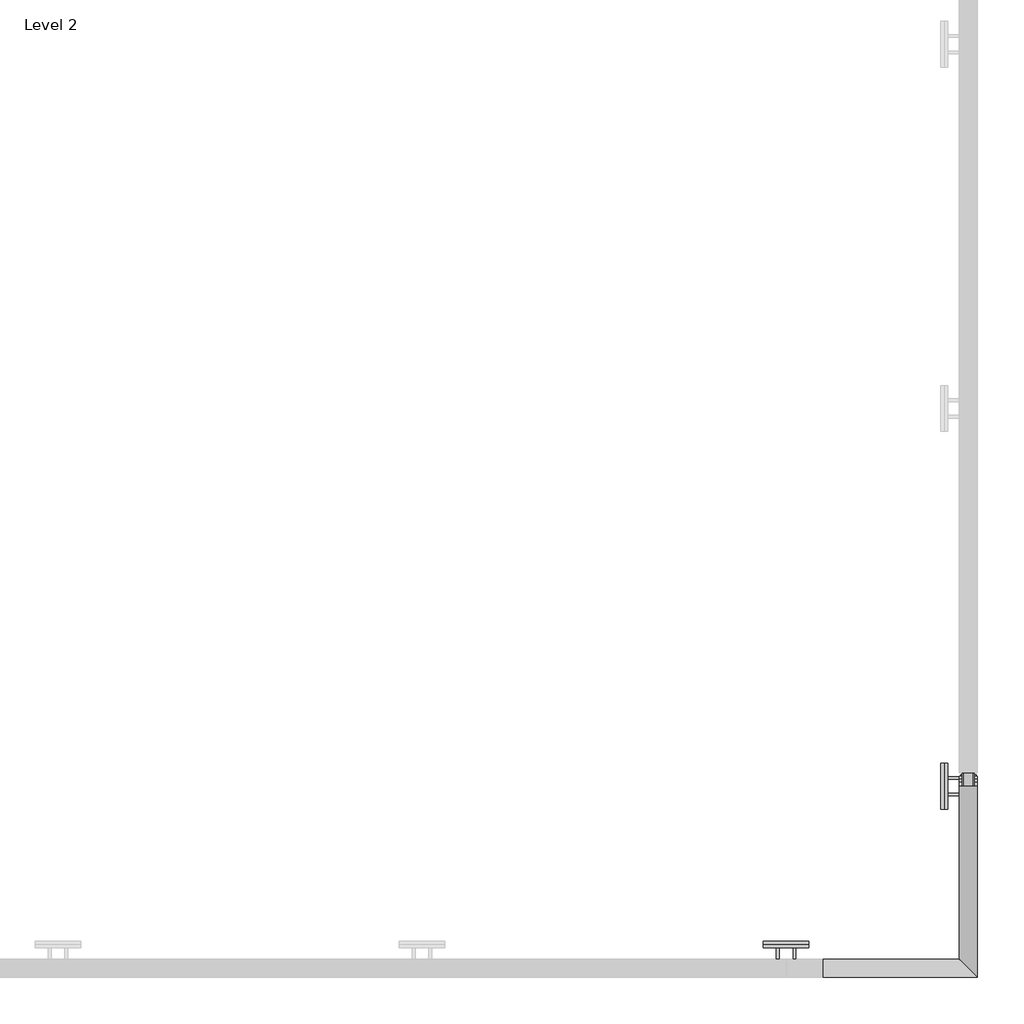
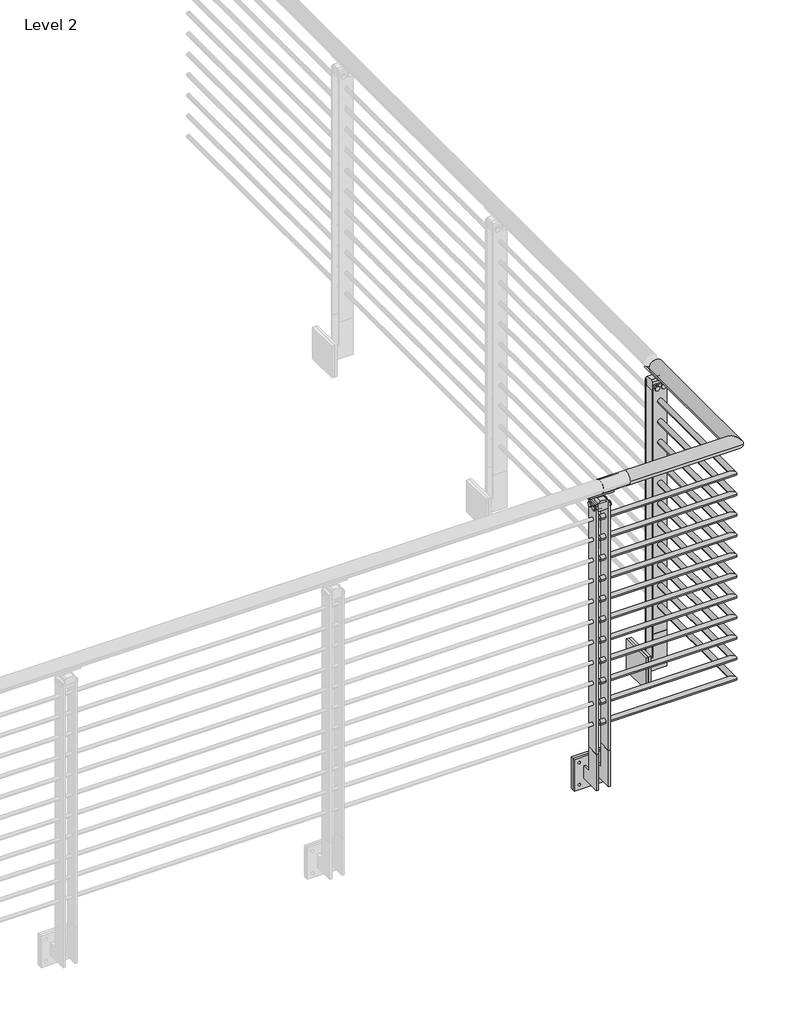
# One storey, part 3 of 31: 1 railing.
"""IFC4 building model written with IfcOpenShell, lengths in millimetres."""

from ifc_helpers import new_model, si_unit, point, frame, frame_2d, origin, place, context, project, spatial, polyline, circle_curve, ellipse_curve, trimmed, segment, composite_curve, outline, extrude, element, save
from ifc_brep_helpers import plane_surface, cylinder_surface, revolved_surface, advanced_brep

model = new_model("IFC4")

# Units and contexts
model_context = context("Model", 3, world=origin())
ifc_project = project(units=[si_unit("LENGTHUNIT", "METRE", prefix="MILLI")], contexts=[model_context])

# Site, building, storey
site = spatial("IfcSite", under=ifc_project)
building = spatial("IfcBuilding", under=site)
storey = spatial("IfcBuildingStorey", under=building, Name="Level 2", Elevation=3048.0)

# Railing
placement = place(None, origin())
element("IfcRailing", 1, ObjectType="VIVA-BLADE-Multiline-Fascia Mount-Corner", at=placement, inside=storey, context=model_context, shape_type="SolidModel", body=[
    advanced_brep(
    [(-4132.0054973, -70126.0426165, 4102.1), (-4132.0054973, -70176.8426165, 4102.1), (-3598.6054973, -70176.8426165, 4102.1), (-3649.4054973, -70126.0426165, 4102.1), (-3649.4054973, -69643.4426165, 4102.1), (-3598.6054973, -69643.4426165, 4102.1)],
    [
        (0, 1, circle_curve(frame((-4132.0054973, -70151.4426165, 4102.1), z_axis=(-1.0, 0.0, 0.0), x_axis=(0.0, -1.0, 0.0)), 25.4)),
        (1, 0, circle_curve(frame((-4132.0054973, -70151.4426165, 4102.1), z_axis=(-1.0, 0.0, 0.0), x_axis=(0.0, -1.0, 0.0)), 25.4)),
        (2, 3, ellipse_curve(frame((-3624.0054973, -70151.4426165, 4102.1), z_axis=(-0.7071067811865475, -0.7071067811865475, 0.0), x_axis=(0.7071067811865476, -0.7071067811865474, 0.0)), 35.9210245, 25.4)),
        (3, 0),
        (1, 2),
        (3, 2, ellipse_curve(frame((-3624.0054973, -70151.4426165, 4102.1), z_axis=(-0.7071067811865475, -0.7071067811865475, 0.0), x_axis=(0.7071067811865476, -0.7071067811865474, 0.0)), 35.9210245, 25.4)),
        (4, 5, circle_curve(frame((-3624.0054973, -69643.4426165, 4102.1), z_axis=(0.0, 1.0, 0.0), x_axis=(1.0, 0.0, 0.0)), 25.4)),
        (5, 4, circle_curve(frame((-3624.0054973, -69643.4426165, 4102.1), z_axis=(0.0, 1.0, 0.0), x_axis=(1.0, 0.0, 0.0)), 25.4)),
        (4, 3),
        (2, 5),
    ],
    [
        plane_surface(frame((-4132.0054973, -70151.4426165, 4127.5), z_axis=(-1.0, 0.0, 0.0), x_axis=(0.0, -1.0, 0.0))),
        cylinder_surface(frame((-3624.0054973, -70151.4426165, 4102.1), z_axis=(1.0, 0.0, 0.0), x_axis=(0.0, -1.0, 0.0)), 25.4),
        plane_surface(frame((-3624.0054973, -69643.4426165, 4127.5), z_axis=(0.0, 1.0, 0.0), x_axis=(0.0, 0.0, -1.0))),
        cylinder_surface(frame((-3624.0054973, -69643.4426165, 4102.1), z_axis=(0.0, 1.0, 0.0), x_axis=(1.0, 0.0, 0.0)), 25.4),
    ],
    [
        (0, [[1, 2]]),
        (1, [[3, 4, -2, 5]]),
        (1, [[6, -5, -1, -4]]),
        (2, [[7, 8]]),
        (3, [[-7, 9, -3, 10]]),
        (3, [[-8, -10, -6, -9]]),
    ],
),
    advanced_brep(
    [(-3633.5304973, -69643.4426165, 3978.275), (-3614.4804973, -69643.4426165, 3978.275), (-3614.4804973, -70160.9676165, 3978.275), (-3633.5304973, -70141.9176165, 3978.275), (-4132.0054973, -70141.9176165, 3978.275), (-4132.0054973, -70160.9676165, 3978.275)],
    [
        (0, 1, circle_curve(frame((-3624.0054973, -69643.4426165, 3978.275), z_axis=(0.0, 1.0, 0.0), x_axis=(1.0, 0.0, 0.0)), 9.525)),
        (1, 0, circle_curve(frame((-3624.0054973, -69643.4426165, 3978.275), z_axis=(0.0, 1.0, 0.0), x_axis=(1.0, 0.0, 0.0)), 9.525)),
        (1, 2),
        (2, 3, ellipse_curve(frame((-3624.0054973, -70151.4426165, 3978.275), z_axis=(0.7071067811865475, 0.7071067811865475, 0.0), x_axis=(-0.7071067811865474, 0.7071067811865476, 0.0)), 13.4703842, 9.525)),
        (3, 0),
        (3, 2, ellipse_curve(frame((-3624.0054973, -70151.4426165, 3978.275), z_axis=(0.7071067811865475, 0.7071067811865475, 0.0), x_axis=(-0.7071067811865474, 0.7071067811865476, 0.0)), 13.4703842, 9.525)),
        (4, 5, circle_curve(frame((-4132.0054973, -70151.4426165, 3978.275), z_axis=(-1.0, 0.0, 0.0), x_axis=(0.0, -1.0, 0.0)), 9.525)),
        (5, 4, circle_curve(frame((-4132.0054973, -70151.4426165, 3978.275), z_axis=(-1.0, 0.0, 0.0), x_axis=(0.0, -1.0, 0.0)), 9.525)),
        (2, 5),
        (4, 3),
    ],
    [
        plane_surface(frame((-3624.0054973, -69643.4426165, 3987.8), z_axis=(0.0, 1.0, 0.0), x_axis=(0.0, 0.0, -1.0))),
        cylinder_surface(frame((-3624.0054973, -69643.4426165, 3978.275), z_axis=(0.0, 1.0, 0.0), x_axis=(1.0, 0.0, 0.0)), 9.525),
        plane_surface(frame((-4132.0054973, -70151.4426165, 3987.8), z_axis=(-1.0, 0.0, 0.0), x_axis=(0.0, -1.0, 0.0))),
        cylinder_surface(frame((-3624.0054973, -70151.4426165, 3978.275), z_axis=(1.0, 0.0, 0.0), x_axis=(0.0, -1.0, 0.0)), 9.525),
    ],
    [
        (0, [[1, 2]]),
        (1, [[-2, 3, 4, 5]]),
        (1, [[-1, -5, 6, -3]]),
        (2, [[7, 8]]),
        (3, [[-4, 9, -7, 10]]),
        (3, [[-6, -10, -8, -9]]),
    ],
),
    advanced_brep(
    [(-3633.5304973, -69643.4426165, 3895.725), (-3614.4804973, -69643.4426165, 3895.725), (-3614.4804973, -70160.9676165, 3895.725), (-3633.5304973, -70141.9176165, 3895.725), (-4132.0054973, -70141.9176165, 3895.725), (-4132.0054973, -70160.9676165, 3895.725)],
    [
        (0, 1, circle_curve(frame((-3624.0054973, -69643.4426165, 3895.725), z_axis=(0.0, 1.0, 0.0), x_axis=(1.0, 0.0, 0.0)), 9.525)),
        (1, 0, circle_curve(frame((-3624.0054973, -69643.4426165, 3895.725), z_axis=(0.0, 1.0, 0.0), x_axis=(1.0, 0.0, 0.0)), 9.525)),
        (1, 2),
        (2, 3, ellipse_curve(frame((-3624.0054973, -70151.4426165, 3895.725), z_axis=(0.7071067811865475, 0.7071067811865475, 0.0), x_axis=(-0.7071067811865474, 0.7071067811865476, 0.0)), 13.4703842, 9.525)),
        (3, 0),
        (3, 2, ellipse_curve(frame((-3624.0054973, -70151.4426165, 3895.725), z_axis=(0.7071067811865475, 0.7071067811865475, 0.0), x_axis=(-0.7071067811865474, 0.7071067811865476, 0.0)), 13.4703842, 9.525)),
        (4, 5, circle_curve(frame((-4132.0054973, -70151.4426165, 3895.725), z_axis=(-1.0, 0.0, 0.0), x_axis=(0.0, -1.0, 0.0)), 9.525)),
        (5, 4, circle_curve(frame((-4132.0054973, -70151.4426165, 3895.725), z_axis=(-1.0, 0.0, 0.0), x_axis=(0.0, -1.0, 0.0)), 9.525)),
        (2, 5),
        (4, 3),
    ],
    [
        plane_surface(frame((-3624.0054973, -69643.4426165, 3905.25), z_axis=(0.0, 1.0, 0.0), x_axis=(0.0, 0.0, -1.0))),
        cylinder_surface(frame((-3624.0054973, -69643.4426165, 3895.725), z_axis=(0.0, 1.0, 0.0), x_axis=(1.0, 0.0, 0.0)), 9.525),
        plane_surface(frame((-4132.0054973, -70151.4426165, 3905.25), z_axis=(-1.0, 0.0, 0.0), x_axis=(0.0, -1.0, 0.0))),
        cylinder_surface(frame((-3624.0054973, -70151.4426165, 3895.725), z_axis=(1.0, 0.0, 0.0), x_axis=(0.0, -1.0, 0.0)), 9.525),
    ],
    [
        (0, [[1, 2]]),
        (1, [[-2, 3, 4, 5]]),
        (1, [[-1, -5, 6, -3]]),
        (2, [[7, 8]]),
        (3, [[-4, 9, -7, 10]]),
        (3, [[-6, -10, -8, -9]]),
    ],
),
    advanced_brep(
    [(-3633.5304973, -69643.4426165, 3813.175), (-3614.4804973, -69643.4426165, 3813.175), (-3614.4804973, -70160.9676165, 3813.175), (-3633.5304973, -70141.9176165, 3813.175), (-4132.0054973, -70141.9176165, 3813.175), (-4132.0054973, -70160.9676165, 3813.175)],
    [
        (0, 1, circle_curve(frame((-3624.0054973, -69643.4426165, 3813.175), z_axis=(0.0, 1.0, 0.0), x_axis=(1.0, 0.0, 0.0)), 9.525)),
        (1, 0, circle_curve(frame((-3624.0054973, -69643.4426165, 3813.175), z_axis=(0.0, 1.0, 0.0), x_axis=(1.0, 0.0, 0.0)), 9.525)),
        (1, 2),
        (2, 3, ellipse_curve(frame((-3624.0054973, -70151.4426165, 3813.175), z_axis=(0.7071067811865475, 0.7071067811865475, 0.0), x_axis=(-0.7071067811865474, 0.7071067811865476, 0.0)), 13.4703842, 9.525)),
        (3, 0),
        (3, 2, ellipse_curve(frame((-3624.0054973, -70151.4426165, 3813.175), z_axis=(0.7071067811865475, 0.7071067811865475, 0.0), x_axis=(-0.7071067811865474, 0.7071067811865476, 0.0)), 13.4703842, 9.525)),
        (4, 5, circle_curve(frame((-4132.0054973, -70151.4426165, 3813.175), z_axis=(-1.0, 0.0, 0.0), x_axis=(0.0, -1.0, 0.0)), 9.525)),
        (5, 4, circle_curve(frame((-4132.0054973, -70151.4426165, 3813.175), z_axis=(-1.0, 0.0, 0.0), x_axis=(0.0, -1.0, 0.0)), 9.525)),
        (2, 5),
        (4, 3),
    ],
    [
        plane_surface(frame((-3624.0054973, -69643.4426165, 3822.7), z_axis=(0.0, 1.0, 0.0), x_axis=(0.0, 0.0, -1.0))),
        cylinder_surface(frame((-3624.0054973, -69643.4426165, 3813.175), z_axis=(0.0, 1.0, 0.0), x_axis=(1.0, 0.0, 0.0)), 9.525),
        plane_surface(frame((-4132.0054973, -70151.4426165, 3822.7), z_axis=(-1.0, 0.0, 0.0), x_axis=(0.0, -1.0, 0.0))),
        cylinder_surface(frame((-3624.0054973, -70151.4426165, 3813.175), z_axis=(1.0, 0.0, 0.0), x_axis=(0.0, -1.0, 0.0)), 9.525),
    ],
    [
        (0, [[1, 2]]),
        (1, [[-2, 3, 4, 5]]),
        (1, [[-1, -5, 6, -3]]),
        (2, [[7, 8]]),
        (3, [[-4, 9, -7, 10]]),
        (3, [[-6, -10, -8, -9]]),
    ],
),
    advanced_brep(
    [(-3633.5304973, -69643.4426165, 3730.625), (-3614.4804973, -69643.4426165, 3730.625), (-3614.4804973, -70160.9676165, 3730.625), (-3633.5304973, -70141.9176165, 3730.625), (-4132.0054973, -70141.9176165, 3730.625), (-4132.0054973, -70160.9676165, 3730.625)],
    [
        (0, 1, circle_curve(frame((-3624.0054973, -69643.4426165, 3730.625), z_axis=(0.0, 1.0, 0.0), x_axis=(1.0, 0.0, 0.0)), 9.525)),
        (1, 0, circle_curve(frame((-3624.0054973, -69643.4426165, 3730.625), z_axis=(0.0, 1.0, 0.0), x_axis=(1.0, 0.0, 0.0)), 9.525)),
        (1, 2),
        (2, 3, ellipse_curve(frame((-3624.0054973, -70151.4426165, 3730.625), z_axis=(0.7071067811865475, 0.7071067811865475, 0.0), x_axis=(-0.7071067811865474, 0.7071067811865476, 0.0)), 13.4703842, 9.525)),
        (3, 0),
        (3, 2, ellipse_curve(frame((-3624.0054973, -70151.4426165, 3730.625), z_axis=(0.7071067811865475, 0.7071067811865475, 0.0), x_axis=(-0.7071067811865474, 0.7071067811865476, 0.0)), 13.4703842, 9.525)),
        (4, 5, circle_curve(frame((-4132.0054973, -70151.4426165, 3730.625), z_axis=(-1.0, 0.0, 0.0), x_axis=(0.0, -1.0, 0.0)), 9.525)),
        (5, 4, circle_curve(frame((-4132.0054973, -70151.4426165, 3730.625), z_axis=(-1.0, 0.0, 0.0), x_axis=(0.0, -1.0, 0.0)), 9.525)),
        (2, 5),
        (4, 3),
    ],
    [
        plane_surface(frame((-3624.0054973, -69643.4426165, 3740.15), z_axis=(0.0, 1.0, 0.0), x_axis=(0.0, 0.0, -1.0))),
        cylinder_surface(frame((-3624.0054973, -69643.4426165, 3730.625), z_axis=(0.0, 1.0, 0.0), x_axis=(1.0, 0.0, 0.0)), 9.525),
        plane_surface(frame((-4132.0054973, -70151.4426165, 3740.15), z_axis=(-1.0, 0.0, 0.0), x_axis=(0.0, -1.0, 0.0))),
        cylinder_surface(frame((-3624.0054973, -70151.4426165, 3730.625), z_axis=(1.0, 0.0, 0.0), x_axis=(0.0, -1.0, 0.0)), 9.525),
    ],
    [
        (0, [[1, 2]]),
        (1, [[-2, 3, 4, 5]]),
        (1, [[-1, -5, 6, -3]]),
        (2, [[7, 8]]),
        (3, [[-4, 9, -7, 10]]),
        (3, [[-6, -10, -8, -9]]),
    ],
),
    advanced_brep(
    [(-3633.5304973, -69643.4426165, 3648.075), (-3614.4804973, -69643.4426165, 3648.075), (-3614.4804973, -70160.9676165, 3648.075), (-3633.5304973, -70141.9176165, 3648.075), (-4132.0054973, -70141.9176165, 3648.075), (-4132.0054973, -70160.9676165, 3648.075)],
    [
        (0, 1, circle_curve(frame((-3624.0054973, -69643.4426165, 3648.075), z_axis=(0.0, 1.0, 0.0), x_axis=(1.0, 0.0, 0.0)), 9.525)),
        (1, 0, circle_curve(frame((-3624.0054973, -69643.4426165, 3648.075), z_axis=(0.0, 1.0, 0.0), x_axis=(1.0, 0.0, 0.0)), 9.525)),
        (1, 2),
        (2, 3, ellipse_curve(frame((-3624.0054973, -70151.4426165, 3648.075), z_axis=(0.7071067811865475, 0.7071067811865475, 0.0), x_axis=(-0.7071067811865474, 0.7071067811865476, 0.0)), 13.4703842, 9.525)),
        (3, 0),
        (3, 2, ellipse_curve(frame((-3624.0054973, -70151.4426165, 3648.075), z_axis=(0.7071067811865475, 0.7071067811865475, 0.0), x_axis=(-0.7071067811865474, 0.7071067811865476, 0.0)), 13.4703842, 9.525)),
        (4, 5, circle_curve(frame((-4132.0054973, -70151.4426165, 3648.075), z_axis=(-1.0, 0.0, 0.0), x_axis=(0.0, -1.0, 0.0)), 9.525)),
        (5, 4, circle_curve(frame((-4132.0054973, -70151.4426165, 3648.075), z_axis=(-1.0, 0.0, 0.0), x_axis=(0.0, -1.0, 0.0)), 9.525)),
        (2, 5),
        (4, 3),
    ],
    [
        plane_surface(frame((-3624.0054973, -69643.4426165, 3657.6), z_axis=(0.0, 1.0, 0.0), x_axis=(0.0, 0.0, -1.0))),
        cylinder_surface(frame((-3624.0054973, -69643.4426165, 3648.075), z_axis=(0.0, 1.0, 0.0), x_axis=(1.0, 0.0, 0.0)), 9.525),
        plane_surface(frame((-4132.0054973, -70151.4426165, 3657.6), z_axis=(-1.0, 0.0, 0.0), x_axis=(0.0, -1.0, 0.0))),
        cylinder_surface(frame((-3624.0054973, -70151.4426165, 3648.075), z_axis=(1.0, 0.0, 0.0), x_axis=(0.0, -1.0, 0.0)), 9.525),
    ],
    [
        (0, [[1, 2]]),
        (1, [[-2, 3, 4, 5]]),
        (1, [[-1, -5, 6, -3]]),
        (2, [[7, 8]]),
        (3, [[-4, 9, -7, 10]]),
        (3, [[-6, -10, -8, -9]]),
    ],
),
    advanced_brep(
    [(-3633.5304973, -69643.4426165, 3565.525), (-3614.4804973, -69643.4426165, 3565.525), (-3614.4804973, -70160.9676165, 3565.525), (-3633.5304973, -70141.9176165, 3565.525), (-4132.0054973, -70141.9176165, 3565.525), (-4132.0054973, -70160.9676165, 3565.525)],
    [
        (0, 1, circle_curve(frame((-3624.0054973, -69643.4426165, 3565.525), z_axis=(0.0, 1.0, 0.0), x_axis=(1.0, 0.0, 0.0)), 9.525)),
        (1, 0, circle_curve(frame((-3624.0054973, -69643.4426165, 3565.525), z_axis=(0.0, 1.0, 0.0), x_axis=(1.0, 0.0, 0.0)), 9.525)),
        (1, 2),
        (2, 3, ellipse_curve(frame((-3624.0054973, -70151.4426165, 3565.525), z_axis=(0.7071067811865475, 0.7071067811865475, 0.0), x_axis=(-0.7071067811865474, 0.7071067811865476, 0.0)), 13.4703842, 9.525)),
        (3, 0),
        (3, 2, ellipse_curve(frame((-3624.0054973, -70151.4426165, 3565.525), z_axis=(0.7071067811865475, 0.7071067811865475, 0.0), x_axis=(-0.7071067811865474, 0.7071067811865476, 0.0)), 13.4703842, 9.525)),
        (4, 5, circle_curve(frame((-4132.0054973, -70151.4426165, 3565.525), z_axis=(-1.0, 0.0, 0.0), x_axis=(0.0, -1.0, 0.0)), 9.525)),
        (5, 4, circle_curve(frame((-4132.0054973, -70151.4426165, 3565.525), z_axis=(-1.0, 0.0, 0.0), x_axis=(0.0, -1.0, 0.0)), 9.525)),
        (2, 5),
        (4, 3),
    ],
    [
        plane_surface(frame((-3624.0054973, -69643.4426165, 3575.05), z_axis=(0.0, 1.0, 0.0), x_axis=(0.0, 0.0, -1.0))),
        cylinder_surface(frame((-3624.0054973, -69643.4426165, 3565.525), z_axis=(0.0, 1.0, 0.0), x_axis=(1.0, 0.0, 0.0)), 9.525),
        plane_surface(frame((-4132.0054973, -70151.4426165, 3575.05), z_axis=(-1.0, 0.0, 0.0), x_axis=(0.0, -1.0, 0.0))),
        cylinder_surface(frame((-3624.0054973, -70151.4426165, 3565.525), z_axis=(1.0, 0.0, 0.0), x_axis=(0.0, -1.0, 0.0)), 9.525),
    ],
    [
        (0, [[1, 2]]),
        (1, [[-2, 3, 4, 5]]),
        (1, [[-1, -5, 6, -3]]),
        (2, [[7, 8]]),
        (3, [[-4, 9, -7, 10]]),
        (3, [[-6, -10, -8, -9]]),
    ],
),
    advanced_brep(
    [(-3633.5304973, -69643.4426165, 3482.975), (-3614.4804973, -69643.4426165, 3482.975), (-3614.4804973, -70160.9676165, 3482.975), (-3633.5304973, -70141.9176165, 3482.975), (-4132.0054973, -70141.9176165, 3482.975), (-4132.0054973, -70160.9676165, 3482.975)],
    [
        (0, 1, circle_curve(frame((-3624.0054973, -69643.4426165, 3482.975), z_axis=(0.0, 1.0, 0.0), x_axis=(1.0, 0.0, 0.0)), 9.525)),
        (1, 0, circle_curve(frame((-3624.0054973, -69643.4426165, 3482.975), z_axis=(0.0, 1.0, 0.0), x_axis=(1.0, 0.0, 0.0)), 9.525)),
        (1, 2),
        (2, 3, ellipse_curve(frame((-3624.0054973, -70151.4426165, 3482.975), z_axis=(0.7071067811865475, 0.7071067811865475, 0.0), x_axis=(-0.7071067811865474, 0.7071067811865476, 0.0)), 13.4703842, 9.525)),
        (3, 0),
        (3, 2, ellipse_curve(frame((-3624.0054973, -70151.4426165, 3482.975), z_axis=(0.7071067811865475, 0.7071067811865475, 0.0), x_axis=(-0.7071067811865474, 0.7071067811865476, 0.0)), 13.4703842, 9.525)),
        (4, 5, circle_curve(frame((-4132.0054973, -70151.4426165, 3482.975), z_axis=(-1.0, 0.0, 0.0), x_axis=(0.0, -1.0, 0.0)), 9.525)),
        (5, 4, circle_curve(frame((-4132.0054973, -70151.4426165, 3482.975), z_axis=(-1.0, 0.0, 0.0), x_axis=(0.0, -1.0, 0.0)), 9.525)),
        (2, 5),
        (4, 3),
    ],
    [
        plane_surface(frame((-3624.0054973, -69643.4426165, 3492.5), z_axis=(0.0, 1.0, 0.0), x_axis=(0.0, 0.0, -1.0))),
        cylinder_surface(frame((-3624.0054973, -69643.4426165, 3482.975), z_axis=(0.0, 1.0, 0.0), x_axis=(1.0, 0.0, 0.0)), 9.525),
        plane_surface(frame((-4132.0054973, -70151.4426165, 3492.5), z_axis=(-1.0, 0.0, 0.0), x_axis=(0.0, -1.0, 0.0))),
        cylinder_surface(frame((-3624.0054973, -70151.4426165, 3482.975), z_axis=(1.0, 0.0, 0.0), x_axis=(0.0, -1.0, 0.0)), 9.525),
    ],
    [
        (0, [[1, 2]]),
        (1, [[-2, 3, 4, 5]]),
        (1, [[-1, -5, 6, -3]]),
        (2, [[7, 8]]),
        (3, [[-4, 9, -7, 10]]),
        (3, [[-6, -10, -8, -9]]),
    ],
),
    advanced_brep(
    [(-3633.5304973, -69643.4426165, 3400.425), (-3614.4804973, -69643.4426165, 3400.425), (-3614.4804973, -70160.9676165, 3400.425), (-3633.5304973, -70141.9176165, 3400.425), (-4132.0054973, -70141.9176165, 3400.425), (-4132.0054973, -70160.9676165, 3400.425)],
    [
        (0, 1, circle_curve(frame((-3624.0054973, -69643.4426165, 3400.425), z_axis=(0.0, 1.0, 0.0), x_axis=(1.0, 0.0, 0.0)), 9.525)),
        (1, 0, circle_curve(frame((-3624.0054973, -69643.4426165, 3400.425), z_axis=(0.0, 1.0, 0.0), x_axis=(1.0, 0.0, 0.0)), 9.525)),
        (1, 2),
        (2, 3, ellipse_curve(frame((-3624.0054973, -70151.4426165, 3400.425), z_axis=(0.7071067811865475, 0.7071067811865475, 0.0), x_axis=(-0.7071067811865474, 0.7071067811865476, 0.0)), 13.4703842, 9.525)),
        (3, 0),
        (3, 2, ellipse_curve(frame((-3624.0054973, -70151.4426165, 3400.425), z_axis=(0.7071067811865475, 0.7071067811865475, 0.0), x_axis=(-0.7071067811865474, 0.7071067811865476, 0.0)), 13.4703842, 9.525)),
        (4, 5, circle_curve(frame((-4132.0054973, -70151.4426165, 3400.425), z_axis=(-1.0, 0.0, 0.0), x_axis=(0.0, -1.0, 0.0)), 9.525)),
        (5, 4, circle_curve(frame((-4132.0054973, -70151.4426165, 3400.425), z_axis=(-1.0, 0.0, 0.0), x_axis=(0.0, -1.0, 0.0)), 9.525)),
        (2, 5),
        (4, 3),
    ],
    [
        plane_surface(frame((-3624.0054973, -69643.4426165, 3409.95), z_axis=(0.0, 1.0, 0.0), x_axis=(0.0, 0.0, -1.0))),
        cylinder_surface(frame((-3624.0054973, -69643.4426165, 3400.425), z_axis=(0.0, 1.0, 0.0), x_axis=(1.0, 0.0, 0.0)), 9.525),
        plane_surface(frame((-4132.0054973, -70151.4426165, 3409.95), z_axis=(-1.0, 0.0, 0.0), x_axis=(0.0, -1.0, 0.0))),
        cylinder_surface(frame((-3624.0054973, -70151.4426165, 3400.425), z_axis=(1.0, 0.0, 0.0), x_axis=(0.0, -1.0, 0.0)), 9.525),
    ],
    [
        (0, [[1, 2]]),
        (1, [[-2, 3, 4, 5]]),
        (1, [[-1, -5, 6, -3]]),
        (2, [[7, 8]]),
        (3, [[-4, 9, -7, 10]]),
        (3, [[-6, -10, -8, -9]]),
    ],
),
    advanced_brep(
    [(-3633.5304973, -69643.4426165, 3317.875), (-3614.4804973, -69643.4426165, 3317.875), (-3614.4804973, -70160.9676165, 3317.875), (-3633.5304973, -70141.9176165, 3317.875), (-4132.0054973, -70141.9176165, 3317.875), (-4132.0054973, -70160.9676165, 3317.875)],
    [
        (0, 1, circle_curve(frame((-3624.0054973, -69643.4426165, 3317.875), z_axis=(0.0, 1.0, 0.0), x_axis=(1.0, 0.0, 0.0)), 9.525)),
        (1, 0, circle_curve(frame((-3624.0054973, -69643.4426165, 3317.875), z_axis=(0.0, 1.0, 0.0), x_axis=(1.0, 0.0, 0.0)), 9.525)),
        (1, 2),
        (2, 3, ellipse_curve(frame((-3624.0054973, -70151.4426165, 3317.875), z_axis=(0.7071067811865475, 0.7071067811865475, 0.0), x_axis=(-0.7071067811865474, 0.7071067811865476, 0.0)), 13.4703842, 9.525)),
        (3, 0),
        (3, 2, ellipse_curve(frame((-3624.0054973, -70151.4426165, 3317.875), z_axis=(0.7071067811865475, 0.7071067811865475, 0.0), x_axis=(-0.7071067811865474, 0.7071067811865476, 0.0)), 13.4703842, 9.525)),
        (4, 5, circle_curve(frame((-4132.0054973, -70151.4426165, 3317.875), z_axis=(-1.0, 0.0, 0.0), x_axis=(0.0, -1.0, 0.0)), 9.525)),
        (5, 4, circle_curve(frame((-4132.0054973, -70151.4426165, 3317.875), z_axis=(-1.0, 0.0, 0.0), x_axis=(0.0, -1.0, 0.0)), 9.525)),
        (2, 5),
        (4, 3),
    ],
    [
        plane_surface(frame((-3624.0054973, -69643.4426165, 3327.4), z_axis=(0.0, 1.0, 0.0), x_axis=(0.0, 0.0, -1.0))),
        cylinder_surface(frame((-3624.0054973, -69643.4426165, 3317.875), z_axis=(0.0, 1.0, 0.0), x_axis=(1.0, 0.0, 0.0)), 9.525),
        plane_surface(frame((-4132.0054973, -70151.4426165, 3327.4), z_axis=(-1.0, 0.0, 0.0), x_axis=(0.0, -1.0, 0.0))),
        cylinder_surface(frame((-3624.0054973, -70151.4426165, 3317.875), z_axis=(1.0, 0.0, 0.0), x_axis=(0.0, -1.0, 0.0)), 9.525),
    ],
    [
        (0, [[1, 2]]),
        (1, [[-2, 3, 4, 5]]),
        (1, [[-1, -5, 6, -3]]),
        (2, [[7, 8]]),
        (3, [[-4, 9, -7, 10]]),
        (3, [[-6, -10, -8, -9]]),
    ],
),
    advanced_brep(
    [(-3633.5304973, -69643.4426165, 3235.325), (-3614.4804973, -69643.4426165, 3235.325), (-3614.4804973, -70160.9676165, 3235.325), (-3633.5304973, -70141.9176165, 3235.325), (-4132.0054973, -70141.9176165, 3235.325), (-4132.0054973, -70160.9676165, 3235.325)],
    [
        (0, 1, circle_curve(frame((-3624.0054973, -69643.4426165, 3235.325), z_axis=(0.0, 1.0, 0.0), x_axis=(1.0, 0.0, 0.0)), 9.525)),
        (1, 0, circle_curve(frame((-3624.0054973, -69643.4426165, 3235.325), z_axis=(0.0, 1.0, 0.0), x_axis=(1.0, 0.0, 0.0)), 9.525)),
        (1, 2),
        (2, 3, ellipse_curve(frame((-3624.0054973, -70151.4426165, 3235.325), z_axis=(0.7071067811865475, 0.7071067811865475, 0.0), x_axis=(-0.7071067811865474, 0.7071067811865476, 0.0)), 13.4703842, 9.525)),
        (3, 0),
        (3, 2, ellipse_curve(frame((-3624.0054973, -70151.4426165, 3235.325), z_axis=(0.7071067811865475, 0.7071067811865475, 0.0), x_axis=(-0.7071067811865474, 0.7071067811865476, 0.0)), 13.4703842, 9.525)),
        (4, 5, circle_curve(frame((-4132.0054973, -70151.4426165, 3235.325), z_axis=(-1.0, 0.0, 0.0), x_axis=(0.0, -1.0, 0.0)), 9.525)),
        (5, 4, circle_curve(frame((-4132.0054973, -70151.4426165, 3235.325), z_axis=(-1.0, 0.0, 0.0), x_axis=(0.0, -1.0, 0.0)), 9.525)),
        (2, 5),
        (4, 3),
    ],
    [
        plane_surface(frame((-3624.0054973, -69643.4426165, 3244.85), z_axis=(0.0, 1.0, 0.0), x_axis=(0.0, 0.0, -1.0))),
        cylinder_surface(frame((-3624.0054973, -69643.4426165, 3235.325), z_axis=(0.0, 1.0, 0.0), x_axis=(1.0, 0.0, 0.0)), 9.525),
        plane_surface(frame((-4132.0054973, -70151.4426165, 3244.85), z_axis=(-1.0, 0.0, 0.0), x_axis=(0.0, -1.0, 0.0))),
        cylinder_surface(frame((-3624.0054973, -70151.4426165, 3235.325), z_axis=(1.0, 0.0, 0.0), x_axis=(0.0, -1.0, 0.0)), 9.525),
    ],
    [
        (0, [[1, 2]]),
        (1, [[-2, 3, 4, 5]]),
        (1, [[-1, -5, 6, -3]]),
        (2, [[7, 8]]),
        (3, [[-4, 9, -7, 10]]),
        (3, [[-6, -10, -8, -9]]),
    ],
),
    advanced_brep(
    [(-3633.5304973, -69643.4426165, 3152.775), (-3614.4804973, -69643.4426165, 3152.775), (-3614.4804973, -70160.9676165, 3152.775), (-3633.5304973, -70141.9176165, 3152.775), (-4132.0054973, -70141.9176165, 3152.775), (-4132.0054973, -70160.9676165, 3152.775)],
    [
        (0, 1, circle_curve(frame((-3624.0054973, -69643.4426165, 3152.775), z_axis=(0.0, 1.0, 0.0), x_axis=(1.0, 0.0, 0.0)), 9.525)),
        (1, 0, circle_curve(frame((-3624.0054973, -69643.4426165, 3152.775), z_axis=(0.0, 1.0, 0.0), x_axis=(1.0, 0.0, 0.0)), 9.525)),
        (1, 2),
        (2, 3, ellipse_curve(frame((-3624.0054973, -70151.4426165, 3152.775), z_axis=(0.7071067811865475, 0.7071067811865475, 0.0), x_axis=(-0.7071067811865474, 0.7071067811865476, 0.0)), 13.4703842, 9.525)),
        (3, 0),
        (3, 2, ellipse_curve(frame((-3624.0054973, -70151.4426165, 3152.775), z_axis=(0.7071067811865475, 0.7071067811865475, 0.0), x_axis=(-0.7071067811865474, 0.7071067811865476, 0.0)), 13.4703842, 9.525)),
        (4, 5, circle_curve(frame((-4132.0054973, -70151.4426165, 3152.775), z_axis=(-1.0, 0.0, 0.0), x_axis=(0.0, -1.0, 0.0)), 9.525)),
        (5, 4, circle_curve(frame((-4132.0054973, -70151.4426165, 3152.775), z_axis=(-1.0, 0.0, 0.0), x_axis=(0.0, -1.0, 0.0)), 9.525)),
        (2, 5),
        (4, 3),
    ],
    [
        plane_surface(frame((-3624.0054973, -69643.4426165, 3162.3), z_axis=(0.0, 1.0, 0.0), x_axis=(0.0, 0.0, -1.0))),
        cylinder_surface(frame((-3624.0054973, -69643.4426165, 3152.775), z_axis=(0.0, 1.0, 0.0), x_axis=(1.0, 0.0, 0.0)), 9.525),
        plane_surface(frame((-4132.0054973, -70151.4426165, 3162.3), z_axis=(-1.0, 0.0, 0.0), x_axis=(0.0, -1.0, 0.0))),
        cylinder_surface(frame((-3624.0054973, -70151.4426165, 3152.775), z_axis=(1.0, 0.0, 0.0), x_axis=(0.0, -1.0, 0.0)), 9.525),
    ],
    [
        (0, [[1, 2]]),
        (1, [[-2, 3, 4, 5]]),
        (1, [[-1, -5, 6, -3]]),
        (2, [[7, 8]]),
        (3, [[-4, 9, -7, 10]]),
        (3, [[-6, -10, -8, -9]]),
    ],
),
    extrude(outline(polyline([(-70176.8451445, 2901.95), (-70176.8451445, 3048.0), (-70126.0451445, 3048.0), (-70126.0451445, 2952.75), (-70094.2924108, 2952.75), (-70094.2924108, 2901.95), (-70176.8451445, 2901.95)])), frame((-4112.9554973, 0.0, 0.0), z_axis=(1.0, 0.0, 0.0), x_axis=(0.0, 1.0, 0.0)), (0.0, 0.0, 1.0), 8.0248357),
    extrude(outline(polyline([(-70126.0451445, 3048.0), (-70126.0451445, 2952.75), (-70094.2924108, 2952.75), (-70094.2924108, 2901.95), (-70176.8451445, 2901.95), (-70176.8451445, 3048.0), (-70126.0451445, 3048.0)])), frame((-4159.0564593, 0.0, 0.0), z_axis=(1.0, 0.0, 0.0), x_axis=(0.0, 1.0, 0.0)), (0.0, 0.0, 1.0), 8.001),
    advanced_brep(
    [(-4177.2428973, -70138.6824929, 4080.0967655), (-4177.2428973, -70134.8465955, 4075.707533), (-4177.2428973, -70166.3634877, 4075.1267745), (-4177.2428973, -70163.5545574, 4079.9535285), (-4086.7680973, -70138.6824929, 4080.0967655), (-4086.7680973, -70163.6415296, 4080.0018447), (-4086.7680973, -70166.4772811, 4075.1893964), (-4086.7680973, -70134.8465955, 4075.707533)],
    [
        (0, 1, circle_curve(frame((-4177.2428973, -70137.1349352, 4077.5784521), z_axis=(-1.0, 0.0, 0.0), x_axis=(0.0, 1.0, 0.0)), 2.9558141)),
        (1, 2, circle_curve(frame((-4177.2428973, -70151.1128327, 4102.9742164), z_axis=(-1.0, 0.0, 0.0), x_axis=(0.0, 1.0, 0.0)), 31.75)),
        (2, 3, circle_curve(frame((-4177.2428973, -70164.8861827, 4077.4993599), z_axis=(-1.0, 0.0, 0.0), x_axis=(0.0, 1.0, 0.0)), 2.7949225)),
        (3, 0, circle_curve(frame((-4177.2428973, -70151.2462958, 4102.2115898), z_axis=(1.0, 0.0, 0.0), x_axis=(0.0, 1.0, 0.0)), 25.4345159)),
        (4, 5, circle_curve(frame((-4086.7680973, -70151.2462958, 4102.2115898), z_axis=(-1.0, 0.0, 0.0), x_axis=(0.0, 1.0, 0.0)), 25.4345159)),
        (5, 6, circle_curve(frame((-4086.7680973, -70164.8861827, 4077.4993599), z_axis=(1.0, 0.0, 0.0), x_axis=(0.0, 1.0, 0.0)), 2.7949225)),
        (6, 7, circle_curve(frame((-4086.7680973, -70151.1128327, 4102.9742164), z_axis=(1.0, 0.0, 0.0), x_axis=(0.0, 1.0, 0.0)), 31.75)),
        (7, 4, circle_curve(frame((-4086.7680973, -70137.1349352, 4077.5784521), z_axis=(1.0, 0.0, 0.0), x_axis=(0.0, 1.0, 0.0)), 2.9558141)),
        (3, 5),
        (4, 0),
        (2, 6),
        (1, 7),
    ],
    [
        plane_surface(frame((-4177.2428973, -70125.8117799, 4102.2115898), z_axis=(-1.0, 0.0, 0.0), x_axis=(0.0, 0.0, -1.0))),
        plane_surface(frame((-4086.7680973, -70125.8117799, 4102.2115898), z_axis=(1.0, 0.0, 0.0), x_axis=(0.0, 0.0, 1.0))),
        revolved_surface(polyline([(-4086.7680973, -70125.8117799, 4102.2115898), (-4177.2428973, -70125.8117799, 4102.2115898)]), (-4086.7680973, -70151.2462958, 4102.2115898), (1.0, 0.0, 0.0)),
        cylinder_surface(frame((-4086.7680973, -70164.8861827, 4077.4993599), z_axis=(-1.0, 0.0, 0.0), x_axis=(0.0, 1.0, 0.0)), 2.7949225),
        cylinder_surface(frame((-4086.7680973, -70151.1128327, 4102.9742164), z_axis=(-1.0, 0.0, 0.0), x_axis=(0.0, 1.0, 0.0)), 31.75),
        cylinder_surface(frame((-4086.7680973, -70137.1349352, 4077.5784521), z_axis=(-1.0, 0.0, 0.0), x_axis=(0.0, 1.0, 0.0)), 2.9558141),
    ],
    [
        (0, [[1, 2, 3, 4]]),
        (1, [[5, 6, 7, 8]]),
        (2, [[9, -5, 10, -4]]),
        (3, [[11, -6, -9, -3]]),
        (4, [[12, -7, -11, -2]]),
        (5, [[-10, -8, -12, -1]]),
    ],
),
    extrude(outline(polyline([(-4195.4935605, -70075.2424108), (-4068.4935605, -70075.2424108), (-4068.4935605, -70084.7674108), (-4195.4935605, -70084.7674108), (-4195.4935605, -70075.2424108)])), frame((0.0, 0.0, 2863.85), z_axis=(0.0, 0.0, 1.0), x_axis=(1.0, 0.0, 0.0)), (0.0, 0.0, 1.0), 127.0),
    extrude(outline(composite_curve([segment(polyline([(4062.4125, -4144.7054973), (4062.4125, -4119.3054973)]), True, "CONTINUOUS"), segment(trimmed(circle_curve(frame_2d((4062.4125, -4104.9375825)), 14.3679149), [point((4062.4125, -4119.3054973))], [point((4076.7804149, -4104.9375825))], True, "CARTESIAN"), True, "CONTINUOUS"), segment(polyline([(4076.7804149, -4104.9375825), (4076.7804149, -4159.0734122)]), True, "CONTINUOUS"), segment(trimmed(circle_curve(frame_2d((4062.4125, -4159.0734122)), 14.3679149), [point((4076.7804149, -4159.0734122))], [point((4062.4125, -4144.7054973))], True, "CARTESIAN"), True, "CONTINUOUS")], self_intersect=False)), frame((0.0, -70153.9826165, 0.0), z_axis=(0.0, 1.0, 0.0), x_axis=(0.0, 0.0, 1.0)), (0.0, 0.0, 1.0), 5.08),
    extrude(outline(polyline([(-4104.9306616, -70126.0428199), (-4104.9306616, -70176.8451445), (-4112.9554973, -70176.8451445), (-4112.9554973, -70126.0428199), (-4104.9306616, -70126.0428199)])), frame((0.0, 0.0, 3048.0), z_axis=(0.0, 0.0, 1.0), x_axis=(1.0, 0.0, 0.0)), (0.0, 0.0, 1.0), 996.95),
    extrude(outline(polyline([(2863.85, -4068.4935605), (2990.85, -4068.4935605), (2990.85, -4195.4935605), (2863.85, -4195.4935605), (2863.85, -4068.4935605)]), holes=[composite_curve([segment(trimmed(circle_curve(frame_2d((2971.8, -4087.5435605)), 4.7068371), [point((2971.8, -4092.2503976))], [point((2971.8, -4082.8367234))], True, "CARTESIAN"), True, "CONTINUOUS"), segment(trimmed(circle_curve(frame_2d((2971.8, -4087.5435605)), 4.7068371), [point((2971.8, -4082.8367234))], [point((2971.8, -4092.2503976))], True, "CARTESIAN"), True, "CONTINUOUS")], self_intersect=False), composite_curve([segment(trimmed(circle_curve(frame_2d((2971.8, -4176.4435605)), 4.7068371), [point((2971.8, -4181.1503976))], [point((2971.8, -4171.7367234))], True, "CARTESIAN"), True, "CONTINUOUS"), segment(trimmed(circle_curve(frame_2d((2971.8, -4176.4435605)), 4.7068371), [point((2971.8, -4171.7367234))], [point((2971.8, -4181.1503976))], True, "CARTESIAN"), True, "CONTINUOUS")], self_intersect=False), composite_curve([segment(trimmed(circle_curve(frame_2d((2882.9, -4176.4435605)), 4.7068371), [point((2882.9, -4181.1503976))], [point((2882.9, -4171.7367234))], True, "CARTESIAN"), True, "CONTINUOUS"), segment(trimmed(circle_curve(frame_2d((2882.9, -4176.4435605)), 4.7068371), [point((2882.9, -4171.7367234))], [point((2882.9, -4181.1503976))], True, "CARTESIAN"), True, "CONTINUOUS")], self_intersect=False), composite_curve([segment(trimmed(circle_curve(frame_2d((2882.9, -4087.5435605)), 4.7068371), [point((2882.9, -4092.2503976))], [point((2882.9, -4082.8367234))], True, "CARTESIAN"), True, "CONTINUOUS"), segment(trimmed(circle_curve(frame_2d((2882.9, -4087.5435605)), 4.7068371), [point((2882.9, -4082.8367234))], [point((2882.9, -4092.2503976))], True, "CARTESIAN"), True, "CONTINUOUS")], self_intersect=False)]), frame((0.0, -70094.2924108, 0.0), z_axis=(0.0, 1.0, 0.0), x_axis=(0.0, 0.0, 1.0)), (0.0, 0.0, 1.0), 9.525),
    extrude(outline(composite_curve([segment(trimmed(circle_curve(frame_2d((-70164.1450935, 4034.0416929)), 8.89), [point((-70173.0350935, 4034.0416929))], [point((-70155.2550935, 4034.0416929))], False, "CARTESIAN"), True, "CONTINUOUS"), segment(trimmed(circle_curve(frame_2d((-70164.1450935, 4034.0416929)), 8.89), [point((-70155.2550935, 4034.0416929))], [point((-70173.0350935, 4034.0416929))], False, "CARTESIAN"), True, "CONTINUOUS")], self_intersect=False)), frame((-4163.7435605, 0.0, 0.0), z_axis=(1.0, 0.0, 0.0), x_axis=(0.0, 1.0, 0.0)), (0.0, 0.0, 1.0), 63.4880631),
    extrude(outline(composite_curve([segment(trimmed(circle_curve(frame_2d((-70138.7451955, 4034.0416929)), 8.89), [point((-70147.6351955, 4034.0416929))], [point((-70129.8551955, 4034.0416929))], False, "CARTESIAN"), True, "CONTINUOUS"), segment(trimmed(circle_curve(frame_2d((-70138.7451955, 4034.0416929)), 8.89), [point((-70129.8551955, 4034.0416929))], [point((-70147.6351955, 4034.0416929))], False, "CARTESIAN"), True, "CONTINUOUS")], self_intersect=False)), frame((-4163.7435605, 0.0, 0.0), z_axis=(1.0, 0.0, 0.0), x_axis=(0.0, 1.0, 0.0)), (0.0, 0.0, 1.0), 63.4880631),
    extrude(outline(polyline([(4022.7123, -4112.9554973), (4056.0625, -4112.9554973), (4062.4125, -4119.3054973), (4062.4125, -4144.7054973), (4056.0625, -4151.0554973), (4022.7123, -4151.0554973), (4022.7123, -4112.9554973)])), frame((0.0, -70176.8451445, 0.0), z_axis=(0.0, 1.0, 0.0), x_axis=(0.0, 0.0, 1.0)), (0.0, 0.0, 1.0), 50.8025279),
    extrude(outline(polyline([(-4151.0554593, -70126.0428199), (-4151.0554593, -70176.8451445), (-4159.0564593, -70176.8451445), (-4159.0564593, -70126.0428199), (-4151.0554593, -70126.0428199)])), frame((0.0, 0.0, 3048.0), z_axis=(0.0, 0.0, 1.0), x_axis=(1.0, 0.0, 0.0)), (0.0, 0.0, 1.0), 996.95),
    extrude(outline(polyline([(2901.95, -3598.6029694), (3048.0, -3598.6029694), (3048.0, -3649.4029694), (2952.75, -3649.4029694), (2952.75, -3681.1557031), (2901.95, -3681.1557031), (2901.95, -3598.6029694)])), frame((0.0, -69624.3926165, 0.0), z_axis=(0.0, 1.0, 0.0), x_axis=(0.0, 0.0, 1.0)), (0.0, 0.0, 1.0), 8.0248357),
    extrude(outline(polyline([(3048.0, -3649.4029694), (2952.75, -3649.4029694), (2952.75, -3681.1557031), (2901.95, -3681.1557031), (2901.95, -3598.6029694), (3048.0, -3598.6029694), (3048.0, -3649.4029694)])), frame((0.0, -69670.4935785, 0.0), z_axis=(0.0, 1.0, 0.0), x_axis=(0.0, 0.0, 1.0)), (0.0, 0.0, 1.0), 8.001),
    advanced_brep(
    [(-3636.765621, -69688.6800165, 4080.0967655), (-3640.6015184, -69688.6800165, 4075.707533), (-3609.0846261, -69688.6800165, 4075.1267745), (-3611.8935564, -69688.6800165, 4079.9535285), (-3636.765621, -69598.2052165, 4080.0967655), (-3611.8065843, -69598.2052165, 4080.0018447), (-3608.9708327, -69598.2052165, 4075.1893964), (-3640.6015184, -69598.2052165, 4075.707533)],
    [
        (0, 1, circle_curve(frame((-3638.3131786, -69688.6800165, 4077.5784521), z_axis=(0.0, -1.0, 0.0), x_axis=(-1.0, 0.0, 0.0)), 2.9558141)),
        (1, 2, circle_curve(frame((-3624.3352812, -69688.6800165, 4102.9742164), z_axis=(0.0, -1.0, 0.0), x_axis=(-1.0, 0.0, 0.0)), 31.75)),
        (2, 3, circle_curve(frame((-3610.5619312, -69688.6800165, 4077.4993599), z_axis=(0.0, -1.0, 0.0), x_axis=(-1.0, 0.0, 0.0)), 2.7949225)),
        (3, 0, circle_curve(frame((-3624.2018181, -69688.6800165, 4102.2115898), z_axis=(0.0, 1.0, 0.0), x_axis=(-1.0, 0.0, 0.0)), 25.4345159)),
        (4, 5, circle_curve(frame((-3624.2018181, -69598.2052165, 4102.2115898), z_axis=(0.0, -1.0, 0.0), x_axis=(-1.0, 0.0, 0.0)), 25.4345159)),
        (5, 6, circle_curve(frame((-3610.5619312, -69598.2052165, 4077.4993599), z_axis=(0.0, 1.0, 0.0), x_axis=(-1.0, 0.0, 0.0)), 2.7949225)),
        (6, 7, circle_curve(frame((-3624.3352812, -69598.2052165, 4102.9742164), z_axis=(0.0, 1.0, 0.0), x_axis=(-1.0, 0.0, 0.0)), 31.75)),
        (7, 4, circle_curve(frame((-3638.3131786, -69598.2052165, 4077.5784521), z_axis=(0.0, 1.0, 0.0), x_axis=(-1.0, 0.0, 0.0)), 2.9558141)),
        (3, 5),
        (4, 0),
        (2, 6),
        (1, 7),
    ],
    [
        plane_surface(frame((-3649.6363339, -69688.6800165, 4102.2115898), z_axis=(0.0, -1.0, 0.0), x_axis=(0.0, 0.0, -1.0))),
        plane_surface(frame((-3649.6363339, -69598.2052165, 4102.2115898), z_axis=(0.0, 1.0, 0.0), x_axis=(0.0, 0.0, 1.0))),
        revolved_surface(polyline([(-3649.636334, -69598.2052165, 4102.2115898), (-3649.636334, -69688.6800165, 4102.2115898)]), (-3624.2018181, -69598.2052165, 4102.2115898), (0.0, 1.0, 0.0)),
        cylinder_surface(frame((-3610.5619312, -69598.2052165, 4077.4993599), z_axis=(0.0, -1.0, 0.0), x_axis=(-1.0, 0.0, 0.0)), 2.7949225),
        cylinder_surface(frame((-3624.3352812, -69598.2052165, 4102.9742164), z_axis=(0.0, -1.0, 0.0), x_axis=(-1.0, 0.0, 0.0)), 31.75),
        cylinder_surface(frame((-3638.3131786, -69598.2052165, 4077.5784521), z_axis=(0.0, -1.0, 0.0), x_axis=(-1.0, 0.0, 0.0)), 2.9558141),
    ],
    [
        (0, [[1, 2, 3, 4]]),
        (1, [[5, 6, 7, 8]]),
        (2, [[9, -5, 10, -4]]),
        (3, [[11, -6, -9, -3]]),
        (4, [[12, -7, -11, -2]]),
        (5, [[-10, -8, -12, -1]]),
    ],
),
    extrude(outline(polyline([(-3700.2057031, -69706.9306797), (-3700.2057031, -69579.9306797), (-3690.6807031, -69579.9306797), (-3690.6807031, -69706.9306797), (-3700.2057031, -69706.9306797)])), frame((0.0, 0.0, 2863.85), z_axis=(0.0, 0.0, 1.0), x_axis=(1.0, 0.0, 0.0)), (0.0, 0.0, 1.0), 127.0),
    extrude(outline(composite_curve([segment(trimmed(circle_curve(frame_2d((-69670.5105314, 4062.4125)), 14.3679149), [point((-69656.1426165, 4062.4125))], [point((-69670.5105314, 4076.7804149))], True, "CARTESIAN"), True, "CONTINUOUS"), segment(polyline([(-69670.5105314, 4076.7804149), (-69616.3747017, 4076.7804149)]), True, "CONTINUOUS"), segment(trimmed(circle_curve(frame_2d((-69616.3747017, 4062.4125)), 14.3679149), [point((-69616.3747017, 4076.7804149))], [point((-69630.7426165, 4062.4125))], True, "CARTESIAN"), True, "CONTINUOUS"), segment(polyline([(-69630.7426165, 4062.4125), (-69656.1426165, 4062.4125)]), True, "CONTINUOUS")], self_intersect=False)), frame((-3626.5454973, 0.0, 0.0), z_axis=(1.0, 0.0, 0.0), x_axis=(0.0, 1.0, 0.0)), (0.0, 0.0, 1.0), 5.08),
    extrude(outline(polyline([(-3649.405294, -69616.3677809), (-3598.6029694, -69616.3677809), (-3598.6029694, -69624.3926165), (-3649.405294, -69624.3926165), (-3649.405294, -69616.3677809)])), frame((0.0, 0.0, 3048.0), z_axis=(0.0, 0.0, 1.0), x_axis=(1.0, 0.0, 0.0)), (0.0, 0.0, 1.0), 996.95),
    extrude(outline(polyline([(-69579.9306797, 2863.85), (-69706.9306797, 2863.85), (-69706.9306797, 2990.85), (-69579.9306797, 2990.85), (-69579.9306797, 2863.85)]), holes=[composite_curve([segment(trimmed(circle_curve(frame_2d((-69598.9806797, 2971.8)), 4.7068371), [point((-69603.6875168, 2971.8))], [point((-69594.2738426, 2971.8))], True, "CARTESIAN"), True, "CONTINUOUS"), segment(trimmed(circle_curve(frame_2d((-69598.9806797, 2971.8)), 4.7068371), [point((-69594.2738426, 2971.8))], [point((-69603.6875168, 2971.8))], True, "CARTESIAN"), True, "CONTINUOUS")], self_intersect=False), composite_curve([segment(trimmed(circle_curve(frame_2d((-69687.8806797, 2971.8)), 4.7068371), [point((-69692.5875168, 2971.8))], [point((-69683.1738426, 2971.8))], True, "CARTESIAN"), True, "CONTINUOUS"), segment(trimmed(circle_curve(frame_2d((-69687.8806797, 2971.8)), 4.7068371), [point((-69683.1738426, 2971.8))], [point((-69692.5875168, 2971.8))], True, "CARTESIAN"), True, "CONTINUOUS")], self_intersect=False), composite_curve([segment(trimmed(circle_curve(frame_2d((-69687.8806797, 2882.9)), 4.7068371), [point((-69692.5875168, 2882.9))], [point((-69683.1738426, 2882.9))], True, "CARTESIAN"), True, "CONTINUOUS"), segment(trimmed(circle_curve(frame_2d((-69687.8806797, 2882.9)), 4.7068371), [point((-69683.1738426, 2882.9))], [point((-69692.5875168, 2882.9))], True, "CARTESIAN"), True, "CONTINUOUS")], self_intersect=False), composite_curve([segment(trimmed(circle_curve(frame_2d((-69598.9806797, 2882.9)), 4.7068371), [point((-69603.6875168, 2882.9))], [point((-69594.2738426, 2882.9))], True, "CARTESIAN"), True, "CONTINUOUS"), segment(trimmed(circle_curve(frame_2d((-69598.9806797, 2882.9)), 4.7068371), [point((-69594.2738426, 2882.9))], [point((-69603.6875168, 2882.9))], True, "CARTESIAN"), True, "CONTINUOUS")], self_intersect=False)]), frame((-3690.6807031, 0.0, 0.0), z_axis=(1.0, 0.0, 0.0), x_axis=(0.0, 1.0, 0.0)), (0.0, 0.0, 1.0), 9.525),
    extrude(outline(composite_curve([segment(trimmed(circle_curve(frame_2d((4034.0416929, -3611.3030204)), 8.89), [point((4034.0416929, -3602.4130204))], [point((4034.0416929, -3620.1930204))], False, "CARTESIAN"), True, "CONTINUOUS"), segment(trimmed(circle_curve(frame_2d((4034.0416929, -3611.3030204)), 8.89), [point((4034.0416929, -3620.1930204))], [point((4034.0416929, -3602.4130204))], False, "CARTESIAN"), True, "CONTINUOUS")], self_intersect=False)), frame((0.0, -69675.1806797, 0.0), z_axis=(0.0, 1.0, 0.0), x_axis=(0.0, 0.0, 1.0)), (0.0, 0.0, 1.0), 63.4880631),
    extrude(outline(composite_curve([segment(trimmed(circle_curve(frame_2d((4034.0416929, -3636.7029184)), 8.89), [point((4034.0416929, -3627.8129184))], [point((4034.0416929, -3645.5929184))], False, "CARTESIAN"), True, "CONTINUOUS"), segment(trimmed(circle_curve(frame_2d((4034.0416929, -3636.7029184)), 8.89), [point((4034.0416929, -3645.5929184))], [point((4034.0416929, -3627.8129184))], False, "CARTESIAN"), True, "CONTINUOUS")], self_intersect=False)), frame((0.0, -69675.1806797, 0.0), z_axis=(0.0, 1.0, 0.0), x_axis=(0.0, 0.0, 1.0)), (0.0, 0.0, 1.0), 63.4880631),
    extrude(outline(polyline([(-69624.3926165, 4022.7123), (-69662.4926165, 4022.7123), (-69662.4926165, 4056.0625), (-69656.1426165, 4062.4125), (-69630.7426165, 4062.4125), (-69624.3926165, 4056.0625), (-69624.3926165, 4022.7123)])), frame((-3649.4054973, 0.0, 0.0), z_axis=(1.0, 0.0, 0.0), x_axis=(0.0, 1.0, 0.0)), (0.0, 0.0, 1.0), 50.8025279),
    extrude(outline(polyline([(-3649.405294, -69662.4925785), (-3598.6029694, -69662.4925785), (-3598.6029694, -69670.4935785), (-3649.405294, -69670.4935785), (-3649.405294, -69662.4925785)])), frame((0.0, 0.0, 3048.0), z_axis=(0.0, 0.0, 1.0), x_axis=(1.0, 0.0, 0.0)), (0.0, 0.0, 1.0), 996.95),
])

save(model, "model.ifc")
